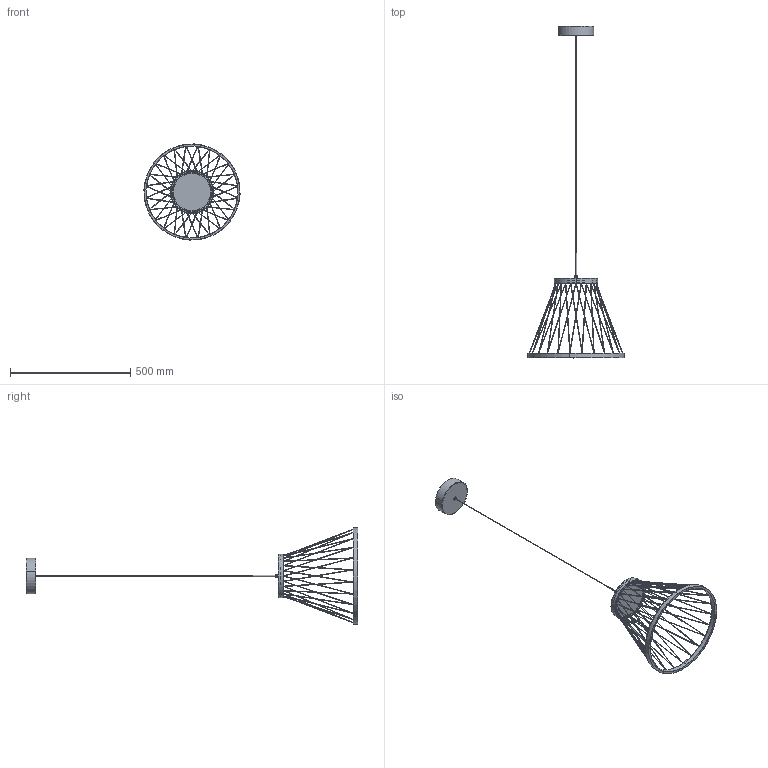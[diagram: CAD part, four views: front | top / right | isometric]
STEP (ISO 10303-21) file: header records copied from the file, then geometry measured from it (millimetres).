
FILE_DESCRIPTION (( 'STEP AP214' ), '1' );
FILE_NAME ('343-400D.STEP', '2024-08-27T12:45:31', ( 'Microsoft' ), ( 'Microsoft' ), 'SwSTEP 2.0', 'SolidWorks 2020', '' );
FILE_SCHEMA (( 'AUTOMOTIVE_DESIGN' ));
Length unit declared in the file: millimetre
Products named in the file (13): 343-400D-163滅嚃嫖濩噩啣; 273-400D汋赽-A; 343-400D; 273-400Dす算裝; M10扥坫肣璃; 343-400D-176埴臏え; M3X6_GB_FASTENER_SCREWS_HSCHS M3X8-N; 343-400D-180型材圈; 343-400D-400型材圈; 273-400D-150唅揤攫; 343-400D-150埴臏價啣; 坶盄諉芛; 萇盄
Assembly tree (64 placements, depth 2):
  343-400D
    343-400D-180型材圈
    343-400D-163滅嚃嫖濩噩啣
    343-400D-176埴臏え
    343-400D-150埴臏價啣
    343-400D-400型材圈
    273-400D汋赽-A  x48
    坶盄諉芛
    M3X6_GB_FASTENER_SCREWS_HSCHS M3X8-N  x6
    萇盄
    273-400Dす算裝
    M10扥坫肣璃
    273-400D-150唅揤攫
Bounding box: 399.62 x 1380 x 399.62 mm (x, y, z)
Volume: 338160.5 mm3; surface area: 503396.7 mm2
Topology: 212 solids, 212 shells, 1937 faces, 4359 edges, 2852 vertices
Faces by surface type: plane 1096, cylinder 532, torus 242, cone 63, bspline 4
Entity records: 47600 total; most frequent: CARTESIAN_POINT 8052, DIRECTION 5698, ORIENTED_EDGE 5314, EDGE_CURVE 2657, VECTOR 2044, LINE 2044, AXIS2_PLACEMENT_3D 1827, VERTEX_POINT 1747
